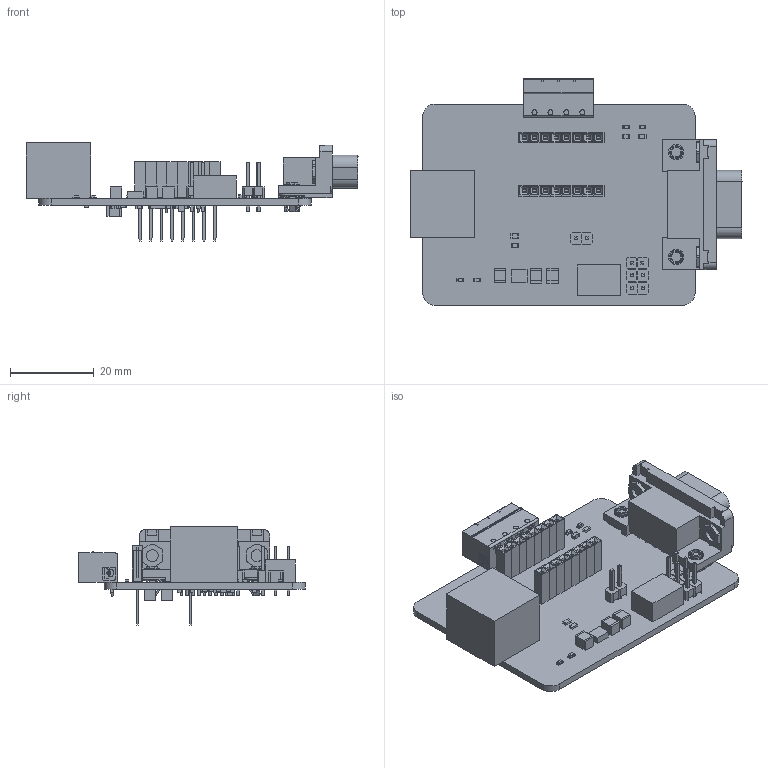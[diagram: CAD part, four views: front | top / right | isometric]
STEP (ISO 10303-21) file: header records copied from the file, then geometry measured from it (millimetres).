
FILE_DESCRIPTION(('Open CASCADE Model'),'2;1');
FILE_NAME('Open CASCADE Shape Model','2020-01-19T15:40:45',('Author'),( 'Open CASCADE'),'Open CASCADE STEP processor 6.5','Open CASCADE 6.5' ,'Unknown');
FILE_SCHEMA(('AUTOMOTIVE_DESIGN { 1 0 10303 214 1 1 1 1 }'));
Length unit declared in the file: millimetre
Products named in the file (98): PCB; Board; J6; User_Library-HDR1X1_Rectangular_Straight; J7; J5; R4; 1182552800; Extruded; 1182552544; R5; R1; 1182556128; 1182556384; R2; 1182554464; 1182554720; R3; 1182555488; 1182555616; J2; 1803293; C6; 1182555104; 1182554976; C7; 1182555744; 1182556000; C8; 1182553056; 1182553184; C5; 1182556640; 1182556768; C1; 1182557024; 1182557280; C2; C3; C4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
Assembly tree (166 placements, depth 4):
  PCB
    Board
    J6
      User_Library-HDR1X1_Rectangular_Straight  x2
    J7
      User_Library-HDR1X1_Rectangular_Straight  x2
    J5
      User_Library-HDR1X1_Rectangular_Straight  x2
    R4
      1182552800  x2
        Extruded
      1182552544
        Extruded
    R5
      1182552800  x2
        Extruded
      1182552544
        Extruded
    R1
      1182556128  x2
        Extruded
      1182556384
        Extruded
    R2
      1182554464
        Extruded
      1182554720  x2
        Extruded
    R3
      1182555488  x2
        Extruded
      1182555616
        Extruded
    J2
      1803293
    C6
      1182555104
        Extruded
      1182554976  x2
        Extruded
    C7
      1182555744
        Extruded
      1182556000  x2
        Extruded
    C8
      1182553056  x2
        Extruded
      1182553184
        Extruded
    C5
      1182556640
        Extruded
      1182556768  x2
        Extruded
    C1
      1182557024
        Extruded
      1182557280  x2
        Extruded
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Bounding box: 79.18 x 54.03 x 23.42 mm (x, y, z)
Volume: 13727.8 mm3; surface area: 16754.5 mm2
Topology: 130 solids, 130 shells, 2433 faces, 5838 edges, 3766 vertices
Faces by surface type: plane 2009, cylinder 382, cone 22, sphere 20
Entity records: 84118 total; most frequent: CARTESIAN_POINT 26062, DIRECTION 9643, LINE 5822, VECTOR 5822, ORIENTED_EDGE 5276, PCURVE 5276, DEFINITIONAL_REPRESENTATION 5276, EDGE_CURVE 2638
